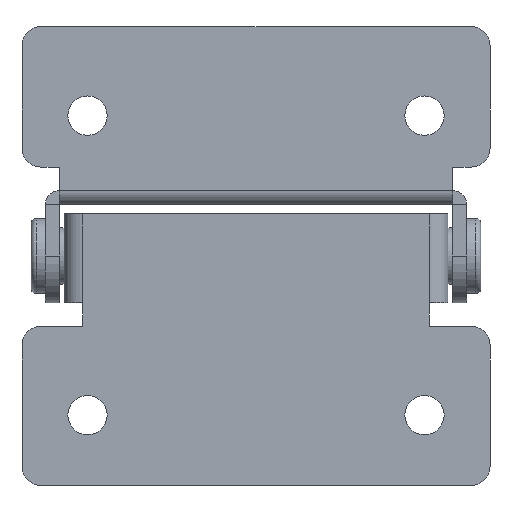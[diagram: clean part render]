
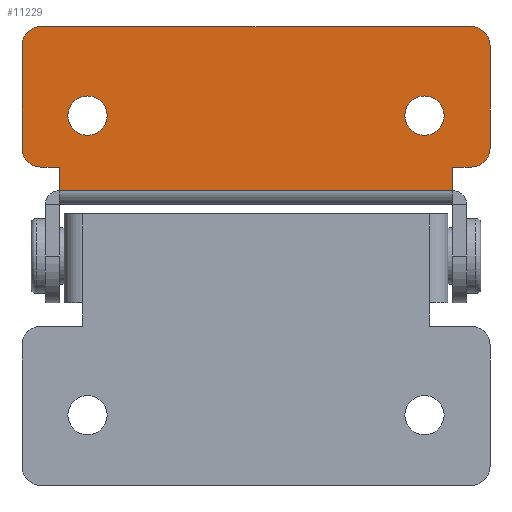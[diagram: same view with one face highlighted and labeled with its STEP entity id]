
A CAD part, front view. The second image highlights one B-rep face of the part: STEP entity #11229.
In plain terms, the highlighted planar face has unit normal (0, -1, 0).
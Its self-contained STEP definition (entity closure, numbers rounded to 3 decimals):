
#202 = VERTEX_POINT ( 'NONE', #7164 ) ;
#220 = AXIS2_PLACEMENT_3D ( 'NONE', #14457, #8541, #9398 ) ;
#343 = CARTESIAN_POINT ( 'NONE',  ( 25., 0., 11.375 ) ) ;
#435 = ORIENTED_EDGE ( 'NONE', *, *, #9579, .F. ) ;
#772 = CARTESIAN_POINT ( 'NONE',  ( -23., 0., 11.375 ) ) ;
#959 = LINE ( 'NONE', #5755, #8522 ) ;
#1179 = CARTESIAN_POINT ( 'NONE',  ( 25., 0., 11.375 ) ) ;
#1363 = EDGE_CURVE ( 'NONE', #8734, #10325, #5544, .T. ) ;
#1478 = VECTOR ( 'NONE', #2160, 1000. ) ;
#1575 = EDGE_CURVE ( 'NONE', #10220, #2555, #5067, .T. ) ;
#1631 = DIRECTION ( 'NONE',  ( 0., 0., 1. ) ) ;
#1801 = PLANE ( 'NONE',  #8216 ) ;
#1964 = EDGE_CURVE ( 'NONE', #10720, #7420, #11277, .T. ) ;
#2044 = ORIENTED_EDGE ( 'NONE', *, *, #4331, .F. ) ;
#2080 = EDGE_CURVE ( 'NONE', #6021, #10720, #12548, .T. ) ;
#2123 = CARTESIAN_POINT ( 'NONE',  ( -25., 0., 22.375 ) ) ;
#2160 = DIRECTION ( 'NONE',  ( 1., 0., 0. ) ) ;
#2168 = CARTESIAN_POINT ( 'NONE',  ( -25., 0., 11.375 ) ) ;
#2178 = VECTOR ( 'NONE', #3167, 1000. ) ;
#2372 = AXIS2_PLACEMENT_3D ( 'NONE', #13625, #7395, #5275 ) ;
#2555 = VERTEX_POINT ( 'NONE', #13290 ) ;
#2560 = CARTESIAN_POINT ( 'NONE',  ( -21., 0., 6.875 ) ) ;
#2616 = EDGE_CURVE ( 'NONE', #12812, #8140, #7000, .T. ) ;
#2696 = VERTEX_POINT ( 'NONE', #14838 ) ;
#2729 = ORIENTED_EDGE ( 'NONE', *, *, #1575, .F. ) ;
#2782 = ORIENTED_EDGE ( 'NONE', *, *, #1964, .F. ) ;
#2982 = DIRECTION ( 'NONE',  ( 0., 1., 0. ) ) ;
#3118 = FACE_OUTER_BOUND ( 'NONE', #14761, .T. ) ;
#3155 = VECTOR ( 'NONE', #6341, 1000. ) ;
#3167 = DIRECTION ( 'NONE',  ( -1., 0., 0. ) ) ;
#3212 = ORIENTED_EDGE ( 'NONE', *, *, #8833, .F. ) ;
#3328 = DIRECTION ( 'NONE',  ( 0., 1., 0. ) ) ;
#3498 = VECTOR ( 'NONE', #11298, 1000. ) ;
#4169 = DIRECTION ( 'NONE',  ( -1., 0., 0. ) ) ;
#4331 = EDGE_CURVE ( 'NONE', #7420, #10220, #959, .T. ) ;
#4360 = CARTESIAN_POINT ( 'NONE',  ( -23., 0., 9.375 ) ) ;
#4556 = ORIENTED_EDGE ( 'NONE', *, *, #5101, .T. ) ;
#4662 = CARTESIAN_POINT ( 'NONE',  ( 21., 0., 9.375 ) ) ;
#4949 = ORIENTED_EDGE ( 'NONE', *, *, #2616, .T. ) ;
#5059 = CARTESIAN_POINT ( 'NONE',  ( -23., 0., 24.375 ) ) ;
#5067 = LINE ( 'NONE', #7202, #8002 ) ;
#5101 = EDGE_CURVE ( 'NONE', #2696, #6357, #12022, .T. ) ;
#5275 = DIRECTION ( 'NONE',  ( 0., 0., 1. ) ) ;
#5411 = DIRECTION ( 'NONE',  ( 0., -1., 0. ) ) ;
#5442 = VERTEX_POINT ( 'NONE', #5873 ) ;
#5544 = LINE ( 'NONE', #5847, #1478 ) ;
#5553 = CARTESIAN_POINT ( 'NONE',  ( 18., 0., 14.875 ) ) ;
#5572 = DIRECTION ( 'NONE',  ( 0., 0., -1. ) ) ;
#5662 = ORIENTED_EDGE ( 'NONE', *, *, #5978, .F. ) ;
#5755 = CARTESIAN_POINT ( 'NONE',  ( 21., 0., 9.375 ) ) ;
#5847 = CARTESIAN_POINT ( 'NONE',  ( -23., 0., 24.375 ) ) ;
#5855 = CARTESIAN_POINT ( 'NONE',  ( 25., 0., 22.375 ) ) ;
#5873 = CARTESIAN_POINT ( 'NONE',  ( -23., 0., 9.375 ) ) ;
#5978 = EDGE_CURVE ( 'NONE', #11959, #5442, #15051, .T. ) ;
#5994 = CARTESIAN_POINT ( 'NONE',  ( 23., 0., 24.375 ) ) ;
#6010 = DIRECTION ( 'NONE',  ( 0., 0., 1. ) ) ;
#6021 = VERTEX_POINT ( 'NONE', #5855 ) ;
#6024 = ORIENTED_EDGE ( 'NONE', *, *, #2080, .F. ) ;
#6079 = CIRCLE ( 'NONE', #13540, 2. ) ;
#6081 = EDGE_CURVE ( 'NONE', #13541, #9773, #15127, .T. ) ;
#6136 = ORIENTED_EDGE ( 'NONE', *, *, #7088, .F. ) ;
#6241 = CIRCLE ( 'NONE', #8492, 2. ) ;
#6341 = DIRECTION ( 'NONE',  ( -1., 0., 0. ) ) ;
#6357 = VERTEX_POINT ( 'NONE', #9152 ) ;
#6738 = ORIENTED_EDGE ( 'NONE', *, *, #13609, .T. ) ;
#7000 = CIRCLE ( 'NONE', #220, 2.1 ) ;
#7088 = EDGE_CURVE ( 'NONE', #2555, #202, #12261, .T. ) ;
#7164 = CARTESIAN_POINT ( 'NONE',  ( -21., 0., 6.875 ) ) ;
#7202 = CARTESIAN_POINT ( 'NONE',  ( 21., 0., 6.875 ) ) ;
#7334 = CARTESIAN_POINT ( 'NONE',  ( 23., 0., 11.375 ) ) ;
#7395 = DIRECTION ( 'NONE',  ( 0., 1., 0. ) ) ;
#7399 = EDGE_CURVE ( 'NONE', #10325, #6021, #6241, .T. ) ;
#7412 = EDGE_LOOP ( 'NONE', ( #13840, #4949 ) ) ;
#7420 = VERTEX_POINT ( 'NONE', #8788 ) ;
#7534 = AXIS2_PLACEMENT_3D ( 'NONE', #8607, #13366, #1631 ) ;
#7636 = CIRCLE ( 'NONE', #2372, 2.1 ) ;
#7772 = FACE_BOUND ( 'NONE', #7412, .T. ) ;
#7813 = LINE ( 'NONE', #14731, #14444 ) ;
#8002 = VECTOR ( 'NONE', #9673, 1000. ) ;
#8054 = DIRECTION ( 'NONE',  ( 0., 1., 0. ) ) ;
#8140 = VERTEX_POINT ( 'NONE', #12206 ) ;
#8216 = AXIS2_PLACEMENT_3D ( 'NONE', #772, #5411, #5572 ) ;
#8492 = AXIS2_PLACEMENT_3D ( 'NONE', #9366, #8054, #12954 ) ;
#8522 = VECTOR ( 'NONE', #4169, 1000. ) ;
#8541 = DIRECTION ( 'NONE',  ( 0., 1., 0. ) ) ;
#8607 = CARTESIAN_POINT ( 'NONE',  ( 18., 0., 14.875 ) ) ;
#8664 = CARTESIAN_POINT ( 'NONE',  ( -23., 0., 22.375 ) ) ;
#8734 = VERTEX_POINT ( 'NONE', #5059 ) ;
#8788 = CARTESIAN_POINT ( 'NONE',  ( 23., 0., 9.375 ) ) ;
#8807 = DIRECTION ( 'NONE',  ( 0., 0., 1. ) ) ;
#8833 = EDGE_CURVE ( 'NONE', #202, #11959, #7813, .T. ) ;
#9152 = CARTESIAN_POINT ( 'NONE',  ( 18., 0., 16.975 ) ) ;
#9366 = CARTESIAN_POINT ( 'NONE',  ( 23., 0., 22.375 ) ) ;
#9379 = ORIENTED_EDGE ( 'NONE', *, *, #9962, .F. ) ;
#9398 = DIRECTION ( 'NONE',  ( 0., 0., 1. ) ) ;
#9579 = EDGE_CURVE ( 'NONE', #5442, #13541, #10044, .T. ) ;
#9673 = DIRECTION ( 'NONE',  ( 0., 0., -1. ) ) ;
#9773 = VERTEX_POINT ( 'NONE', #2123 ) ;
#9962 = EDGE_CURVE ( 'NONE', #9773, #8734, #6079, .T. ) ;
#10044 = CIRCLE ( 'NONE', #13285, 2. ) ;
#10220 = VERTEX_POINT ( 'NONE', #4662 ) ;
#10325 = VERTEX_POINT ( 'NONE', #5994 ) ;
#10536 = DIRECTION ( 'NONE',  ( 0., 0., 1. ) ) ;
#10557 = ORIENTED_EDGE ( 'NONE', *, *, #6081, .F. ) ;
#10720 = VERTEX_POINT ( 'NONE', #1179 ) ;
#11086 = DIRECTION ( 'NONE',  ( 0., 0., 1. ) ) ;
#11118 = AXIS2_PLACEMENT_3D ( 'NONE', #5553, #3328, #15442 ) ;
#11229 = ADVANCED_FACE ( 'NONE', ( #7772, #3118, #11501 ), #1801, .T. ) ;
#11277 = CIRCLE ( 'NONE', #11788, 2. ) ;
#11298 = DIRECTION ( 'NONE',  ( 0., 0., -1. ) ) ;
#11501 = FACE_BOUND ( 'NONE', #12751, .T. ) ;
#11617 = ORIENTED_EDGE ( 'NONE', *, *, #1363, .F. ) ;
#11788 = AXIS2_PLACEMENT_3D ( 'NONE', #7334, #14272, #6010 ) ;
#11959 = VERTEX_POINT ( 'NONE', #13705 ) ;
#11972 = CARTESIAN_POINT ( 'NONE',  ( -18., 0., 12.775 ) ) ;
#12022 = CIRCLE ( 'NONE', #7534, 2.1 ) ;
#12127 = CIRCLE ( 'NONE', #11118, 2.1 ) ;
#12206 = CARTESIAN_POINT ( 'NONE',  ( -18., 0., 16.975 ) ) ;
#12261 = LINE ( 'NONE', #2560, #3155 ) ;
#12377 = DIRECTION ( 'NONE',  ( 0., 0., -1. ) ) ;
#12548 = LINE ( 'NONE', #343, #3498 ) ;
#12751 = EDGE_LOOP ( 'NONE', ( #6738, #4556 ) ) ;
#12798 = CARTESIAN_POINT ( 'NONE',  ( -25., 0., 11.375 ) ) ;
#12812 = VERTEX_POINT ( 'NONE', #11972 ) ;
#12901 = VECTOR ( 'NONE', #10536, 1000. ) ;
#12904 = ORIENTED_EDGE ( 'NONE', *, *, #7399, .F. ) ;
#12954 = DIRECTION ( 'NONE',  ( 0., 0., 1. ) ) ;
#13285 = AXIS2_PLACEMENT_3D ( 'NONE', #14786, #2982, #12377 ) ;
#13290 = CARTESIAN_POINT ( 'NONE',  ( 21., 0., 6.875 ) ) ;
#13366 = DIRECTION ( 'NONE',  ( 0., 1., 0. ) ) ;
#13540 = AXIS2_PLACEMENT_3D ( 'NONE', #8664, #14587, #11086 ) ;
#13541 = VERTEX_POINT ( 'NONE', #12798 ) ;
#13609 = EDGE_CURVE ( 'NONE', #6357, #2696, #12127, .T. ) ;
#13625 = CARTESIAN_POINT ( 'NONE',  ( -18., 0., 14.875 ) ) ;
#13705 = CARTESIAN_POINT ( 'NONE',  ( -21., 0., 9.375 ) ) ;
#13840 = ORIENTED_EDGE ( 'NONE', *, *, #14340, .T. ) ;
#14272 = DIRECTION ( 'NONE',  ( 0., 1., 0. ) ) ;
#14340 = EDGE_CURVE ( 'NONE', #8140, #12812, #7636, .T. ) ;
#14444 = VECTOR ( 'NONE', #8807, 1000. ) ;
#14457 = CARTESIAN_POINT ( 'NONE',  ( -18., 0., 14.875 ) ) ;
#14587 = DIRECTION ( 'NONE',  ( 0., 1., 0. ) ) ;
#14731 = CARTESIAN_POINT ( 'NONE',  ( -21., 0., 6.875 ) ) ;
#14761 = EDGE_LOOP ( 'NONE', ( #3212, #6136, #2729, #2044, #2782, #6024, #12904, #11617, #9379, #10557, #435, #5662 ) ) ;
#14786 = CARTESIAN_POINT ( 'NONE',  ( -23., 0., 11.375 ) ) ;
#14838 = CARTESIAN_POINT ( 'NONE',  ( 18., 0., 12.775 ) ) ;
#15051 = LINE ( 'NONE', #4360, #2178 ) ;
#15127 = LINE ( 'NONE', #2168, #12901 ) ;
#15442 = DIRECTION ( 'NONE',  ( 0., 0., 1. ) ) ;
